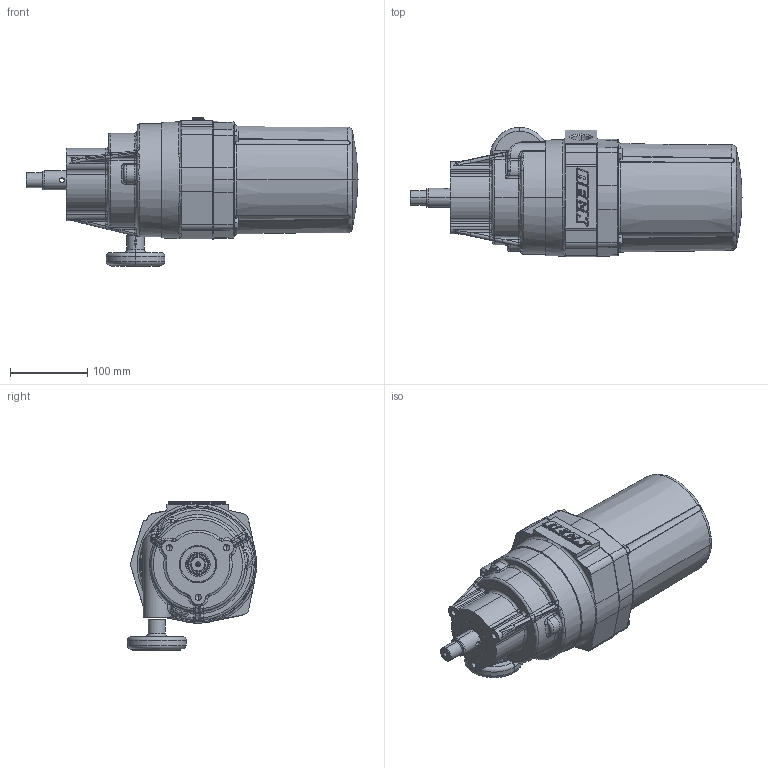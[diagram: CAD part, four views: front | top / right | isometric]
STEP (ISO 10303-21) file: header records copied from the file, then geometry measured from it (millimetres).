
FILE_DESCRIPTION (( 'STEP AP203' ), '1' );
FILE_NAME ('18-0031-01.STEP', '2011-06-16T16:50:39', ( '' ), ( '' ), 'SwSTEP 2.0', 'SolidWorks 2009', '' );
FILE_SCHEMA (( 'CONFIG_CONTROL_DESIGN' ));
Length unit declared in the file: inch
Products named in the file (1): 18-0031-01
Bounding box: 430.47 x 167.53 x 192.88 mm (x, y, z)
Volume: 2196991.2 mm3; surface area: 514147.5 mm2
Topology: 13 solids, 13 shells, 1812 faces, 4062 edges, 2260 vertices
Faces by surface type: cone 703, cylinder 443, plane 261, torus 209, bspline 149, sphere 47
Entity records: 76342 total; most frequent: CARTESIAN_POINT 36534, DIRECTION 8933, ORIENTED_EDGE 7948, EDGE_CURVE 3974, AXIS2_PLACEMENT_3D 3715, VERTEX_POINT 2252, CIRCLE 2051, EDGE_LOOP 1928
